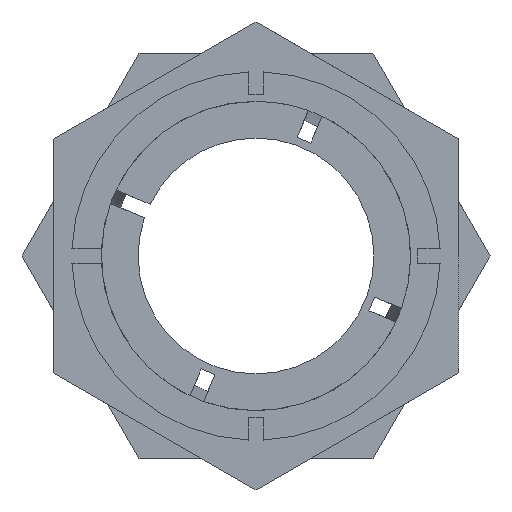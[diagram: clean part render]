
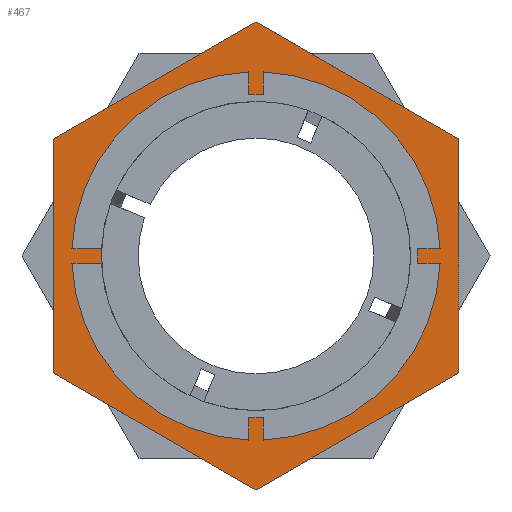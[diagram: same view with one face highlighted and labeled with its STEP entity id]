
A CAD part, left-side view. The second image highlights one B-rep face of the part: STEP entity #467.
In plain terms, the highlighted planar face has unit normal (-1, 0, 0).
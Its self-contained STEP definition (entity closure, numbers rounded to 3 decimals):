
#6 = EDGE_CURVE ( 'NONE', #769, #1259, #2271, .T. ) ;
#15 = EDGE_CURVE ( 'NONE', #1270, #1258, #1783, .T. ) ;
#19 = EDGE_CURVE ( 'NONE', #1257, #769, #1778, .T. ) ;
#20 = EDGE_CURVE ( 'NONE', #772, #1262, #1776, .T. ) ;
#21 = EDGE_CURVE ( 'NONE', #1259, #772, #1774, .T. ) ;
#22 = EDGE_CURVE ( 'NONE', #1258, #1270, #1770, .T. ) ;
#23 = EDGE_CURVE ( 'NONE', #1264, #1257, #1782, .T. ) ;
#24 = EDGE_CURVE ( 'NONE', #1262, #1264, #1769, .T. ) ;
#135 = AXIS2_PLACEMENT_3D ( 'NONE', #1281, #1280, #1279 ) ;
#137 = AXIS2_PLACEMENT_3D ( 'NONE', #1272, #1253, #1252 ) ;
#200 = AXIS2_PLACEMENT_3D ( 'NONE', #836, #831, #830 ) ;
#467 = ADVANCED_FACE ( 'NONE', ( #2389, #2351 ), #837, .F. ) ;
#769 = VERTEX_POINT ( 'NONE', #1405 ) ;
#772 = VERTEX_POINT ( 'NONE', #1408 ) ;
#830 = DIRECTION ( 'NONE',  ( 0., 0., -1. ) ) ;
#831 = DIRECTION ( 'NONE',  ( 1., 0., 0. ) ) ;
#836 = CARTESIAN_POINT ( 'NONE',  ( 28.52, 50., 0. ) ) ;
#837 = PLANE ( 'NONE',  #200 ) ;
#1248 = DIRECTION ( 'NONE',  ( 0., 0.866, 0.5 ) ) ;
#1249 = CARTESIAN_POINT ( 'NONE',  ( 28.52, 0., 31.754 ) ) ;
#1250 = DIRECTION ( 'NONE',  ( 0., 0.866, -0.5 ) ) ;
#1251 = CARTESIAN_POINT ( 'NONE',  ( 28.52, 27.5, 15.877 ) ) ;
#1252 = DIRECTION ( 'NONE',  ( 0., 0., 1. ) ) ;
#1253 = DIRECTION ( 'NONE',  ( -1., 0., 0. ) ) ;
#1254 = DIRECTION ( 'NONE',  ( 0., -0.866, 0.5 ) ) ;
#1255 = CARTESIAN_POINT ( 'NONE',  ( 28.52, -27.5, -15.877 ) ) ;
#1256 = DIRECTION ( 'NONE',  ( 0., 0., 1. ) ) ;
#1257 = VERTEX_POINT ( 'NONE', #1447 ) ;
#1258 = VERTEX_POINT ( 'NONE', #1448 ) ;
#1259 = VERTEX_POINT ( 'NONE', #1449 ) ;
#1262 = VERTEX_POINT ( 'NONE', #1452 ) ;
#1263 = CARTESIAN_POINT ( 'NONE',  ( 28.52, 27.5, -15.877 ) ) ;
#1264 = VERTEX_POINT ( 'NONE', #1453 ) ;
#1267 = DIRECTION ( 'NONE',  ( 0., 0., -1. ) ) ;
#1268 = CARTESIAN_POINT ( 'NONE',  ( 28.52, -27.5, 15.877 ) ) ;
#1270 = VERTEX_POINT ( 'NONE', #1457 ) ;
#1272 = CARTESIAN_POINT ( 'NONE',  ( 28.52, 0., 0. ) ) ;
#1279 = DIRECTION ( 'NONE',  ( 0., 0., 1. ) ) ;
#1280 = DIRECTION ( 'NONE',  ( -1., 0., 0. ) ) ;
#1281 = CARTESIAN_POINT ( 'NONE',  ( 28.52, 0., 0. ) ) ;
#1298 = DIRECTION ( 'NONE',  ( 0., -0.866, -0.5 ) ) ;
#1299 = CARTESIAN_POINT ( 'NONE',  ( 28.52, 0., -31.754 ) ) ;
#1405 = CARTESIAN_POINT ( 'NONE',  ( 28.52, 27.5, -15.877 ) ) ;
#1408 = CARTESIAN_POINT ( 'NONE',  ( 28.52, -27.5, -15.877 ) ) ;
#1447 = CARTESIAN_POINT ( 'NONE',  ( 28.52, 27.5, 15.877 ) ) ;
#1448 = CARTESIAN_POINT ( 'NONE',  ( 28.52, 0., 20.001 ) ) ;
#1449 = CARTESIAN_POINT ( 'NONE',  ( 28.52, 0., -31.754 ) ) ;
#1452 = CARTESIAN_POINT ( 'NONE',  ( 28.52, -27.5, 15.877 ) ) ;
#1453 = CARTESIAN_POINT ( 'NONE',  ( 28.52, 0., 31.754 ) ) ;
#1457 = CARTESIAN_POINT ( 'NONE',  ( 28.52, 0., -20.001 ) ) ;
#1768 = VECTOR ( 'NONE', #1248, 1000. ) ;
#1769 = LINE ( 'NONE', #1249, #1768 ) ;
#1770 = CIRCLE ( 'NONE', #137, 20.001 ) ;
#1773 = VECTOR ( 'NONE', #1254, 1000. ) ;
#1774 = LINE ( 'NONE', #1255, #1773 ) ;
#1775 = VECTOR ( 'NONE', #1256, 1000. ) ;
#1776 = LINE ( 'NONE', #1268, #1775 ) ;
#1777 = VECTOR ( 'NONE', #1267, 1000. ) ;
#1778 = LINE ( 'NONE', #1263, #1777 ) ;
#1781 = VECTOR ( 'NONE', #1250, 1000. ) ;
#1782 = LINE ( 'NONE', #1251, #1781 ) ;
#1783 = CIRCLE ( 'NONE', #135, 20.001 ) ;
#1801 = VECTOR ( 'NONE', #1298, 1000. ) ;
#1860 = EDGE_LOOP ( 'NONE', ( #2004, #2003 ) ) ;
#1997 = ORIENTED_EDGE ( 'NONE', *, *, #24, .T. ) ;
#1998 = ORIENTED_EDGE ( 'NONE', *, *, #20, .T. ) ;
#1999 = ORIENTED_EDGE ( 'NONE', *, *, #21, .T. ) ;
#2000 = ORIENTED_EDGE ( 'NONE', *, *, #6, .T. ) ;
#2001 = ORIENTED_EDGE ( 'NONE', *, *, #19, .T. ) ;
#2002 = ORIENTED_EDGE ( 'NONE', *, *, #23, .T. ) ;
#2003 = ORIENTED_EDGE ( 'NONE', *, *, #15, .F. ) ;
#2004 = ORIENTED_EDGE ( 'NONE', *, *, #22, .F. ) ;
#2137 = EDGE_LOOP ( 'NONE', ( #2002, #2001, #2000, #1999, #1998, #1997 ) ) ;
#2271 = LINE ( 'NONE', #1299, #1801 ) ;
#2351 = FACE_OUTER_BOUND ( 'NONE', #2137, .T. ) ;
#2389 = FACE_BOUND ( 'NONE', #1860, .T. ) ;
